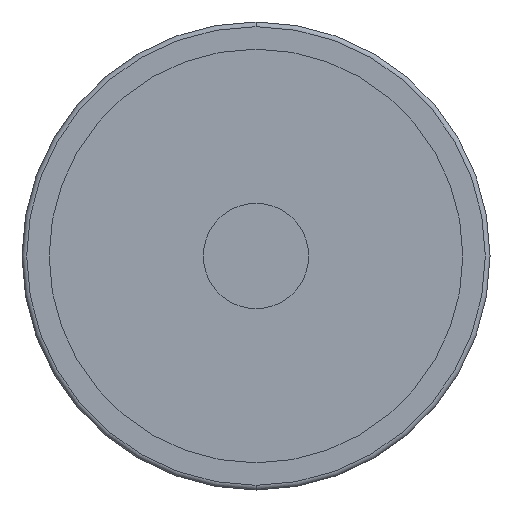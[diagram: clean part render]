
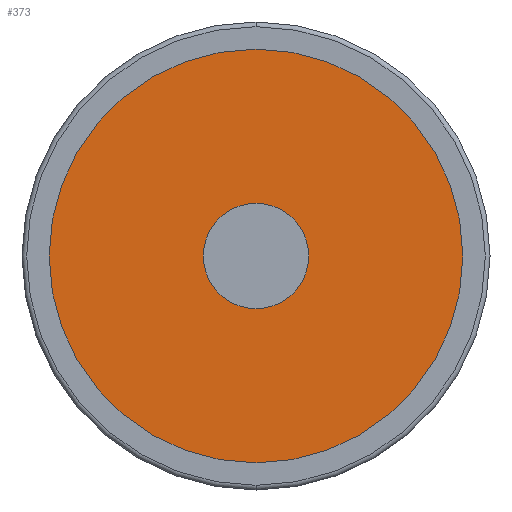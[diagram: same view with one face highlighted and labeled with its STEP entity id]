
A CAD part, front view. The second image highlights one B-rep face of the part: STEP entity #373.
In plain terms, the highlighted planar face has unit normal (0, -1, 0).
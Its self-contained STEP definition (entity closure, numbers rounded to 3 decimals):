
#100 = EDGE_CURVE ( 'NONE', #505, #244, #1106, .T. ) ;
#116 = CIRCLE ( 'NONE', #630, 10.25 ) ;
#142 = DIRECTION ( 'NONE',  ( 0., -1., 0. ) ) ;
#151 = AXIS2_PLACEMENT_3D ( 'NONE', #191, #979, #952 ) ;
#191 = CARTESIAN_POINT ( 'NONE',  ( -44.3, 4.5, 0. ) ) ;
#217 = FACE_BOUND ( 'NONE', #1295, .T. ) ;
#244 = VERTEX_POINT ( 'NONE', #1044 ) ;
#307 = CARTESIAN_POINT ( 'NONE',  ( 10.25, 4.5, 0. ) ) ;
#373 = ADVANCED_FACE ( 'NONE', ( #2305, #217 ), #1361, .T. ) ;
#505 = VERTEX_POINT ( 'NONE', #307 ) ;
#531 = CARTESIAN_POINT ( 'NONE',  ( 0., 4.5, 0. ) ) ;
#555 = CARTESIAN_POINT ( 'NONE',  ( 0., 4.5, 0. ) ) ;
#585 = ORIENTED_EDGE ( 'NONE', *, *, #100, .F. ) ;
#630 = AXIS2_PLACEMENT_3D ( 'NONE', #712, #142, #907 ) ;
#633 = AXIS2_PLACEMENT_3D ( 'NONE', #531, #1693, #1109 ) ;
#712 = CARTESIAN_POINT ( 'NONE',  ( 0., 4.5, 0. ) ) ;
#802 = AXIS2_PLACEMENT_3D ( 'NONE', #555, #2257, #2073 ) ;
#850 = CARTESIAN_POINT ( 'NONE',  ( 44.3, 4.5, 0. ) ) ;
#907 = DIRECTION ( 'NONE',  ( 1., 0., 0. ) ) ;
#926 = ORIENTED_EDGE ( 'NONE', *, *, #2018, .T. ) ;
#931 = EDGE_LOOP ( 'NONE', ( #926, #947 ) ) ;
#936 = VERTEX_POINT ( 'NONE', #1636 ) ;
#947 = ORIENTED_EDGE ( 'NONE', *, *, #1728, .T. ) ;
#952 = DIRECTION ( 'NONE',  ( 1., 0., 0. ) ) ;
#979 = DIRECTION ( 'NONE',  ( 0., -1., 0. ) ) ;
#1032 = AXIS2_PLACEMENT_3D ( 'NONE', #1380, #2162, #2138 ) ;
#1044 = CARTESIAN_POINT ( 'NONE',  ( -10.25, 4.5, 0. ) ) ;
#1106 = CIRCLE ( 'NONE', #1032, 10.25 ) ;
#1109 = DIRECTION ( 'NONE',  ( 1., 0., 0. ) ) ;
#1123 = EDGE_CURVE ( 'NONE', #244, #505, #116, .T. ) ;
#1295 = EDGE_LOOP ( 'NONE', ( #585, #1887 ) ) ;
#1361 = PLANE ( 'NONE',  #151 ) ;
#1380 = CARTESIAN_POINT ( 'NONE',  ( 0., 4.5, 0. ) ) ;
#1636 = CARTESIAN_POINT ( 'NONE',  ( -44.3, 4.5, 0. ) ) ;
#1693 = DIRECTION ( 'NONE',  ( 0., -1., 0. ) ) ;
#1728 = EDGE_CURVE ( 'NONE', #1816, #936, #2201, .T. ) ;
#1816 = VERTEX_POINT ( 'NONE', #850 ) ;
#1881 = CIRCLE ( 'NONE', #802, 44.3 ) ;
#1887 = ORIENTED_EDGE ( 'NONE', *, *, #1123, .F. ) ;
#2018 = EDGE_CURVE ( 'NONE', #936, #1816, #1881, .T. ) ;
#2073 = DIRECTION ( 'NONE',  ( 1., 0., 0. ) ) ;
#2138 = DIRECTION ( 'NONE',  ( 1., 0., 0. ) ) ;
#2162 = DIRECTION ( 'NONE',  ( 0., -1., 0. ) ) ;
#2201 = CIRCLE ( 'NONE', #633, 44.3 ) ;
#2257 = DIRECTION ( 'NONE',  ( 0., -1., 0. ) ) ;
#2305 = FACE_OUTER_BOUND ( 'NONE', #931, .T. ) ;
